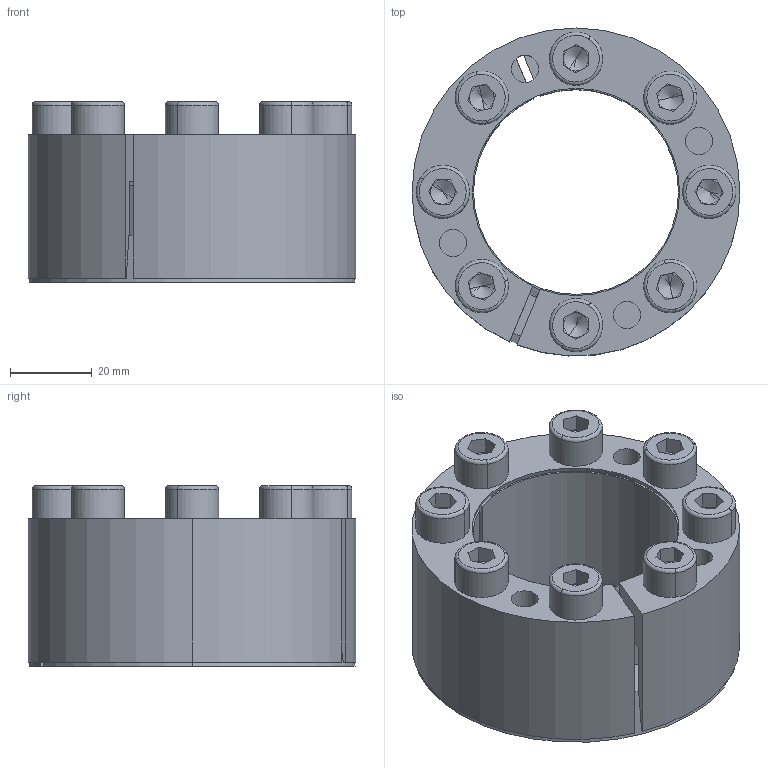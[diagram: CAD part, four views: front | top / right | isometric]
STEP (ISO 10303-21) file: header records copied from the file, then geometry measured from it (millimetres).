
FILE_DESCRIPTION (( 'STEP AP214' ), '1' );
FILE_NAME ('CONEX-K-50x80.step', '2013-04-06T13:21:16', ( 'Pc' ), ( '' ), 'SwSTEP 2.0', 'SolidWorks 2013', '' );
FILE_SCHEMA (( 'AUTOMOTIVE_DESIGN' ));
Length unit declared in the file: millimetre
Products named in the file (1): CONEX-K-50x80
Bounding box: 80 x 79.96 x 44.01 mm (x, y, z)
Volume: 93820.1 mm3; surface area: 55405 mm2
Topology: 10 solids, 10 shells, 290 faces, 670 edges, 400 vertices
Faces by surface type: plane 130, cylinder 84, cone 44, torus 32
Entity records: 11481 total; most frequent: DIRECTION 1542, CARTESIAN_POINT 1369, ORIENTED_EDGE 1308, EDGE_CURVE 654, AXIS2_PLACEMENT_3D 605, VERTEX_POINT 400, EDGE_LOOP 346, VECTOR 332
